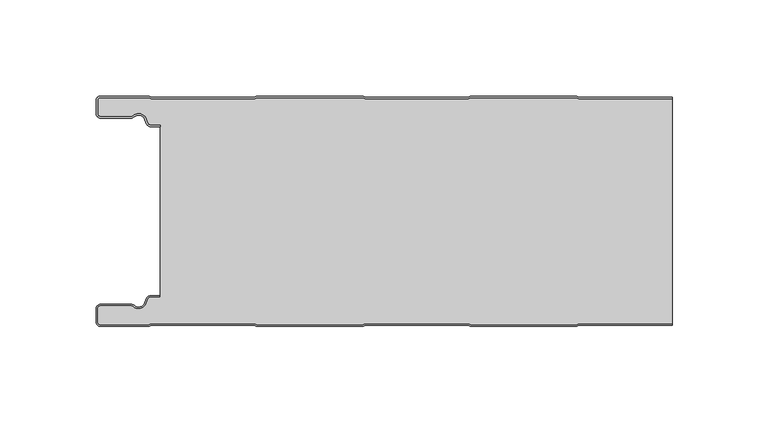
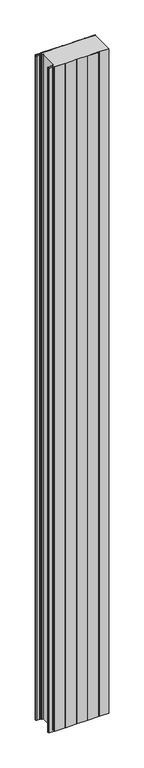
"""IFC4 building model written with IfcOpenShell, lengths in millimetres: plate geometry, ACH_Panel-Frigorífico_PUR-PIR : ACH_Panel-Frigorífico-PIR_120mm."""

from ifc_helpers import new_model, si_unit, point, frame_2d, origin, origin_with_axes, place, context, project, spatial, polyline, circle_curve, trimmed, segment, composite_curve, outline, extrude, source, transform, mapped, element, save


def plate_80f3f18a(model_context):
    return source(origin(), model_context, "Body", "SweptSolid", [
        extrude(outline(composite_curve([segment(trimmed(circle_curve(frame_2d((-147.49499, -9.0180361)), 2.50501), [point((-147.49499, -11.5230461))], [point((-150.0, -9.0180361))], False, "CARTESIAN"), True, "CONTINUOUS"), segment(polyline([(-150.0, -9.0180361), (-150.0, -2.50501)]), True, "CONTINUOUS"), segment(trimmed(circle_curve(frame_2d((-147.49499, -2.50501)), 2.50501), [point((-150.0, -2.50501))], [point((-147.49499, 0.0))], False, "CARTESIAN"), True, "CONTINUOUS"), segment(polyline([(-147.49499, 0.0), (-122.2103007, 0.0), (-121.028188, -0.6012024), (-67.6391467, -0.6012024), (-66.457034, 0.0), (-10.8776353, 0.0), (-9.6955227, -0.6012024), (43.6935186, -0.6012024), (44.8756313, 0.0), (100.45503, 0.0), (101.6371427, -0.6012024), (150.0, -0.6012024), (150.0, -1.4012024), (101.4453963, -1.4012024), (100.2632836, -0.8), (45.0673777, -0.8), (43.885265, -1.4012024), (-9.887269, -1.4012024), (-11.0693817, -0.8), (-66.2652876, -0.8), (-67.4474003, -1.4012024), (-121.2199344, -1.4012024), (-122.4020471, -0.8), (-147.49499, -0.8)]), True, "CONTINUOUS"), segment(trimmed(circle_curve(frame_2d((-147.49499, -2.50501)), 1.70501), [point((-147.49499, -0.8))], [point((-149.2, -2.50501))], True, "CARTESIAN"), True, "CONTINUOUS"), segment(polyline([(-149.2, -2.50501), (-149.2, -9.0180361)]), True, "CONTINUOUS"), segment(trimmed(circle_curve(frame_2d((-147.49499, -9.0180361)), 1.70501), [point((-149.2, -9.0180361))], [point((-147.49499, -10.7230461))], True, "CARTESIAN"), True, "CONTINUOUS"), segment(polyline([(-147.49499, -10.7230461), (-131.8173283, -10.7230461)]), True, "CONTINUOUS"), segment(trimmed(circle_curve(frame_2d((-131.8173283, -9.0180361)), 1.70501), [point((-131.8173283, -10.7230461))], [point((-130.6895701, -10.2967936))], True, "CARTESIAN"), True, "CONTINUOUS"), segment(trimmed(circle_curve(frame_2d((-127.8407481, -13.5270541)), 4.307014), [point((-130.6895701, -10.2967936))], [point((-123.7934788, -12.0539686))], False, "CARTESIAN"), True, "CONTINUOUS"), segment(polyline([(-123.7934788, -12.0539686), (-123.0450711, -14.1102019)]), True, "CONTINUOUS"), segment(trimmed(circle_curve(frame_2d((-121.4428858, -13.5270541)), 1.70501), [point((-123.0450711, -14.1102019))], [point((-121.4428858, -15.2320641))], True, "CARTESIAN"), True, "CONTINUOUS"), segment(polyline([(-121.4428858, -15.2320641), (-116.4328657, -15.2320641), (-116.4328657, -16.0320641), (-121.4428858, -16.0320641)]), True, "CONTINUOUS"), segment(trimmed(circle_curve(frame_2d((-121.4428858, -13.5270541)), 2.50501), [point((-121.4428858, -16.0320641))], [point((-123.7968252, -14.383818))], False, "CARTESIAN"), True, "CONTINUOUS"), segment(polyline([(-123.7968252, -14.383818), (-124.5452329, -12.3275847)]), True, "CONTINUOUS"), segment(trimmed(circle_curve(frame_2d((-127.8407481, -13.5270541)), 3.507014), [point((-124.5452329, -12.3275847))], [point((-130.1604199, -10.8967936))], True, "CARTESIAN"), True, "CONTINUOUS"), segment(trimmed(circle_curve(frame_2d((-131.8173283, -9.0180361)), 2.50501), [point((-130.1604199, -10.8967936))], [point((-131.8173283, -11.5230461))], False, "CARTESIAN"), True, "CONTINUOUS"), segment(polyline([(-131.8173283, -11.5230461), (-147.49499, -11.5230461)]), True, "CONTINUOUS")], self_intersect=False)), origin_with_axes(), (0.0, 0.0, 1.0), 3500.0),
        extrude(outline(composite_curve([segment(trimmed(circle_curve(frame_2d((-121.4428858, -13.5270541)), 1.70501), [point((-121.4428858, -15.2320641))], [point((-123.0450711, -14.1102019))], False, "CARTESIAN"), True, "CONTINUOUS"), segment(polyline([(-123.0450711, -14.1102019), (-123.7934788, -12.0539686)]), True, "CONTINUOUS"), segment(trimmed(circle_curve(frame_2d((-127.8407481, -13.5270541)), 4.307014), [point((-123.7934788, -12.0539686))], [point((-130.6895701, -10.2967936))], True, "CARTESIAN"), True, "CONTINUOUS"), segment(trimmed(circle_curve(frame_2d((-131.8173283, -9.0180361)), 1.70501), [point((-130.6895701, -10.2967936))], [point((-131.8173283, -10.7230461))], False, "CARTESIAN"), True, "CONTINUOUS"), segment(polyline([(-131.8173283, -10.7230461), (-147.49499, -10.7230461)]), True, "CONTINUOUS"), segment(trimmed(circle_curve(frame_2d((-147.49499, -9.0180361)), 1.70501), [point((-147.49499, -10.7230461))], [point((-149.2, -9.0180361))], False, "CARTESIAN"), True, "CONTINUOUS"), segment(polyline([(-149.2, -9.0180361), (-149.2, -2.50501)]), True, "CONTINUOUS"), segment(trimmed(circle_curve(frame_2d((-147.49499, -2.50501)), 1.70501), [point((-149.2, -2.50501))], [point((-147.49499, -0.8))], False, "CARTESIAN"), True, "CONTINUOUS"), segment(polyline([(-147.49499, -0.8), (-122.4020471, -0.8), (-121.2199344, -1.4012024), (-67.4474003, -1.4012024), (-66.2652876, -0.8), (-11.0693817, -0.8), (-9.887269, -1.4012024), (43.885265, -1.4012024), (45.0673777, -0.8), (100.2632836, -0.8), (101.4453963, -1.4012024), (150.0, -1.4012024), (150.0, -118.5987976), (101.4453963, -118.5987976), (100.2632836, -119.2), (45.0673777, -119.2), (43.885265, -118.5987976), (-9.887269, -118.5987976), (-11.0693817, -119.2), (-66.2652876, -119.2), (-67.4474003, -118.5987976), (-121.2199344, -118.5987976), (-122.4020471, -119.2), (-147.49499, -119.2)]), True, "CONTINUOUS"), segment(trimmed(circle_curve(frame_2d((-147.49499, -117.49499)), 1.70501), [point((-147.49499, -119.2))], [point((-149.2, -117.49499))], False, "CARTESIAN"), True, "CONTINUOUS"), segment(polyline([(-149.2, -117.49499), (-149.2, -110.9819639)]), True, "CONTINUOUS"), segment(trimmed(circle_curve(frame_2d((-147.49499, -110.9819639)), 1.70501), [point((-149.2, -110.9819639))], [point((-147.49499, -109.2769539))], False, "CARTESIAN"), True, "CONTINUOUS"), segment(polyline([(-147.49499, -109.2769539), (-131.8173283, -109.2769539)]), True, "CONTINUOUS"), segment(trimmed(circle_curve(frame_2d((-131.8173283, -110.9819639)), 1.70501), [point((-131.8173283, -109.2769539))], [point((-130.6895701, -109.7032064))], False, "CARTESIAN"), True, "CONTINUOUS"), segment(trimmed(circle_curve(frame_2d((-127.8407481, -106.4729459)), 4.307014), [point((-130.6895701, -109.7032064))], [point((-123.7934788, -107.9460314))], True, "CARTESIAN"), True, "CONTINUOUS"), segment(polyline([(-123.7934788, -107.9460314), (-123.0450711, -105.8897981)]), True, "CONTINUOUS"), segment(trimmed(circle_curve(frame_2d((-121.4428858, -106.4729459)), 1.70501), [point((-123.0450711, -105.8897981))], [point((-121.4428858, -104.7679359))], False, "CARTESIAN"), True, "CONTINUOUS"), segment(polyline([(-121.4428858, -104.7679359), (-116.4328657, -104.7679359), (-116.4328657, -15.2320641), (-121.4428858, -15.2320641)]), True, "CONTINUOUS")], self_intersect=False)), origin_with_axes(), (0.0, 0.0, 1.0), 3500.0),
        extrude(outline(composite_curve([segment(polyline([(-147.49499, -108.4769539), (-131.8173283, -108.4769539)]), True, "CONTINUOUS"), segment(trimmed(circle_curve(frame_2d((-131.8173283, -110.9819639)), 2.50501), [point((-131.8173283, -108.4769539))], [point((-130.1604199, -109.1032064))], False, "CARTESIAN"), True, "CONTINUOUS"), segment(trimmed(circle_curve(frame_2d((-127.8407481, -106.4729459)), 3.507014), [point((-130.1604199, -109.1032064))], [point((-124.5452329, -107.6724153))], True, "CARTESIAN"), True, "CONTINUOUS"), segment(polyline([(-124.5452329, -107.6724153), (-123.7968252, -105.616182)]), True, "CONTINUOUS"), segment(trimmed(circle_curve(frame_2d((-121.4428858, -106.4729459)), 2.50501), [point((-123.7968252, -105.616182))], [point((-121.4428858, -103.9679359))], False, "CARTESIAN"), True, "CONTINUOUS"), segment(polyline([(-121.4428858, -103.9679359), (-116.4328657, -103.9679359), (-116.4328657, -104.7679359), (-121.4428858, -104.7679359)]), True, "CONTINUOUS"), segment(trimmed(circle_curve(frame_2d((-121.4428858, -106.4729459)), 1.70501), [point((-121.4428858, -104.7679359))], [point((-123.0450711, -105.8897981))], True, "CARTESIAN"), True, "CONTINUOUS"), segment(polyline([(-123.0450711, -105.8897981), (-123.7934788, -107.9460314)]), True, "CONTINUOUS"), segment(trimmed(circle_curve(frame_2d((-127.8407481, -106.4729459)), 4.307014), [point((-123.7934788, -107.9460314))], [point((-130.6895701, -109.7032064))], False, "CARTESIAN"), True, "CONTINUOUS"), segment(trimmed(circle_curve(frame_2d((-131.8173283, -110.9819639)), 1.70501), [point((-130.6895701, -109.7032064))], [point((-131.8173283, -109.2769539))], True, "CARTESIAN"), True, "CONTINUOUS"), segment(polyline([(-131.8173283, -109.2769539), (-147.49499, -109.2769539)]), True, "CONTINUOUS"), segment(trimmed(circle_curve(frame_2d((-147.49499, -110.9819639)), 1.70501), [point((-147.49499, -109.2769539))], [point((-149.2, -110.9819639))], True, "CARTESIAN"), True, "CONTINUOUS"), segment(polyline([(-149.2, -110.9819639), (-149.2, -117.49499)]), True, "CONTINUOUS"), segment(trimmed(circle_curve(frame_2d((-147.49499, -117.49499)), 1.70501), [point((-149.2, -117.49499))], [point((-147.49499, -119.2))], True, "CARTESIAN"), True, "CONTINUOUS"), segment(polyline([(-147.49499, -119.2), (-122.4020471, -119.2), (-121.2199344, -118.5987976), (-67.4474003, -118.5987976), (-66.2652876, -119.2), (-11.0693817, -119.2), (-9.887269, -118.5987976), (43.885265, -118.5987976), (45.0673777, -119.2), (100.2632836, -119.2), (101.4453963, -118.5987976), (150.0, -118.5987976), (150.0, -119.3987976), (101.6371427, -119.3987976), (100.45503, -120.0), (44.8756313, -120.0), (43.6935186, -119.3987976), (-9.6955227, -119.3987976), (-10.8776353, -120.0), (-66.457034, -120.0), (-67.6391467, -119.3987976), (-121.028188, -119.3987976), (-122.2103007, -120.0), (-147.49499, -120.0)]), True, "CONTINUOUS"), segment(trimmed(circle_curve(frame_2d((-147.49499, -117.49499)), 2.50501), [point((-147.49499, -120.0))], [point((-150.0, -117.49499))], False, "CARTESIAN"), True, "CONTINUOUS"), segment(polyline([(-150.0, -117.49499), (-150.0, -110.9819639)]), True, "CONTINUOUS"), segment(trimmed(circle_curve(frame_2d((-147.49499, -110.9819639)), 2.50501), [point((-150.0, -110.9819639))], [point((-147.49499, -108.4769539))], False, "CARTESIAN"), True, "CONTINUOUS")], self_intersect=False)), origin_with_axes(), (0.0, 0.0, 1.0), 3500.0),
    ])


if __name__ == "__main__":
    model = new_model("IFC4")
    model_context = context("Model", 3, world=origin())
    ifc_project = project(units=[si_unit("LENGTHUNIT", "METRE", prefix="MILLI")], contexts=[model_context])
    site = spatial("IfcSite", under=ifc_project)
    building = spatial("IfcBuilding", under=site)
    placement = place(None, origin())
    plate_shape = plate_80f3f18a(model_context)
    element("IfcPlate", 1, ObjectType="ACH_Panel-Frigorífico_PUR-PIR : ACH_Panel-Frigorífico-PIR_120mm", at=placement, inside=building, context=model_context, shape_type="MappedRepresentation", body=[
        mapped(plate_shape, transform((0.0, 0.0, 0.0), x_axis=(1.0, 0.0, 0.0), y_axis=(0.0, 1.0, 0.0), z_axis=(0.0, 0.0, 1.0))),
    ])
    save(model, "model.ifc")
